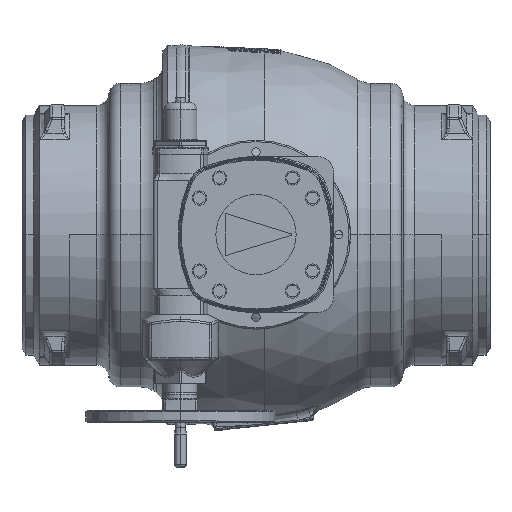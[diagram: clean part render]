
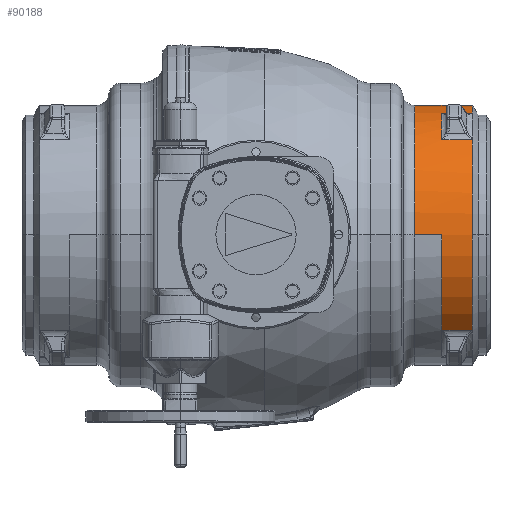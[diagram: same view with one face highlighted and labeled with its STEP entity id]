
A CAD part, top view. The second image highlights one B-rep face of the part: STEP entity #90188.
In plain terms, the highlighted cylindrical face has radius 275 mm (diameter 550 mm), a partial arc.
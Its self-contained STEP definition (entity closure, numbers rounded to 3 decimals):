
#17996=DIRECTION('',(-1.,0.,0.));
#17997=VECTOR('',#17996,57.674);
#17998=CARTESIAN_POINT('',(393.5,0.,-275.));
#17999=LINE('',#17998,#17997);
#18005=DIRECTION('',(-1.,0.,0.));
#18006=VECTOR('',#18005,57.674);
#18007=CARTESIAN_POINT('',(393.5,0.,275.));
#18008=LINE('',#18007,#18006);
#18009=CARTESIAN_POINT('',(393.5,0.,0.));
#18010=DIRECTION('',(-1.,0.,0.));
#18011=DIRECTION('',(0.,-0.733,0.68));
#18012=AXIS2_PLACEMENT_3D('',#18009,#18010,#18011);
#18661=CARTESIAN_POINT('',(458.376,0.,0.));
#18662=DIRECTION('',(-1.,0.,0.));
#18663=DIRECTION('',(0.,0.,1.));
#18664=AXIS2_PLACEMENT_3D('',#18661,#18662,#18663);
#18666=CARTESIAN_POINT('',(458.376,0.,0.));
#18667=DIRECTION('',(-1.,0.,0.));
#18668=DIRECTION('',(0.,-0.733,0.68));
#18669=AXIS2_PLACEMENT_3D('',#18666,#18667,#18668);
#18671=DIRECTION('',(-1.,0.,0.));
#18672=VECTOR('',#18671,64.876);
#18673=CARTESIAN_POINT('',(458.376,-201.653,
186.978));
#18674=LINE('',#18673,#18672);
#18675=CARTESIAN_POINT('',(335.826,0.,0.));
#18676=DIRECTION('',(1.,0.,0.));
#18677=DIRECTION('',(0.,0.,-1.));
#18678=AXIS2_PLACEMENT_3D('',#18675,#18676,#18677);
#18680=DIRECTION('',(-1.,0.,0.));
#18681=VECTOR('',#18680,64.876);
#18682=CARTESIAN_POINT('',(458.376,47.742,
-270.824));
#18683=LINE('',#18682,#18681);
#18684=CARTESIAN_POINT('',(458.376,0.,0.));
#18685=DIRECTION('',(-1.,0.,0.));
#18686=DIRECTION('',(0.,0.94,0.342));
#18687=AXIS2_PLACEMENT_3D('',#18684,#18685,#18686);
#18689=DIRECTION('',(-1.,0.,0.));
#18690=VECTOR('',#18689,64.876);
#18691=CARTESIAN_POINT('',(458.376,258.411,94.067));
#18692=LINE('',#18691,#18690);
#18693=DIRECTION('',(-1.,0.,0.));
#18694=VECTOR('',#18693,64.876);
#18695=CARTESIAN_POINT('',(458.376,201.653,186.978));
#18696=LINE('',#18695,#18694);
#18864=CARTESIAN_POINT('',(393.5,201.653,186.978));
#18866=CARTESIAN_POINT('',(393.5,0.,0.));
#18867=DIRECTION('',(-1.,0.,0.));
#18868=DIRECTION('',(0.,0.733,0.68));
#18869=AXIS2_PLACEMENT_3D('',#18866,#18867,#18868);
#19000=CARTESIAN_POINT('',(393.5,258.411,94.067));
#19598=CARTESIAN_POINT('',(393.5,47.742,-270.824));
#19600=CARTESIAN_POINT('',(393.5,0.,0.));
#19601=DIRECTION('',(-1.,0.,0.));
#19602=DIRECTION('',(0.,0.174,-0.985));
#19603=AXIS2_PLACEMENT_3D('',#19600,#19601,#19602);
#40465=CARTESIAN_POINT('',(335.826,0.,-275.));
#40466=CARTESIAN_POINT('',(335.826,0.,275.));
#40467=VERTEX_POINT('',#40465);
#40468=VERTEX_POINT('',#40466);
#41492=CARTESIAN_POINT('',(458.376,0.,275.));
#41493=CARTESIAN_POINT('',(458.376,201.653,186.978));
#41494=VERTEX_POINT('',#41492);
#41495=VERTEX_POINT('',#41493);
#41550=CARTESIAN_POINT('',(393.5,0.,-275.));
#41551=VERTEX_POINT('',#41550);
#41552=CARTESIAN_POINT('',(393.5,0.,275.));
#41553=VERTEX_POINT('',#41552);
#41554=CARTESIAN_POINT('',(393.5,-201.653,186.978));
#41555=VERTEX_POINT('',#41554);
#41580=VERTEX_POINT('',#19598);
#41646=VERTEX_POINT('',#18864);
#41688=VERTEX_POINT('',#19000);
#41697=CARTESIAN_POINT('',(458.376,258.411,94.067));
#41698=CARTESIAN_POINT('',(458.376,47.742,
-270.824));
#41699=VERTEX_POINT('',#41697);
#41700=VERTEX_POINT('',#41698);
#41701=CARTESIAN_POINT('',(458.376,-201.653,
186.978));
#41702=VERTEX_POINT('',#41701);
#90161=CARTESIAN_POINT('',(549.675,0.,0.));
#90162=DIRECTION('',(-1.,0.,0.));
#90163=DIRECTION('',(0.,0.,1.));
#90164=AXIS2_PLACEMENT_3D('',#90161,#90162,#90163);
#90165=CYLINDRICAL_SURFACE('',#90164,275.);
#90167=ORIENTED_EDGE('',*,*,#90166,.F.);
#90168=ORIENTED_EDGE('',*,*,#88835,.F.);
#90169=ORIENTED_EDGE('',*,*,#90016,.T.);
#90170=ORIENTED_EDGE('',*,*,#88810,.T.);
#90171=ORIENTED_EDGE('',*,*,#88808,.T.);
#90172=ORIENTED_EDGE('',*,*,#88761,.F.);
#90173=ORIENTED_EDGE('',*,*,#88805,.F.);
#90175=ORIENTED_EDGE('',*,*,#90174,.F.);
#90177=ORIENTED_EDGE('',*,*,#90176,.F.);
#90179=ORIENTED_EDGE('',*,*,#90178,.F.);
#90181=ORIENTED_EDGE('',*,*,#90180,.T.);
#90183=ORIENTED_EDGE('',*,*,#90182,.F.);
#90185=ORIENTED_EDGE('',*,*,#90184,.F.);
#90186=EDGE_LOOP('',(#90167,#90168,#90169,#90170,#90171,#90172,#90173,#90175,
#90177,#90179,#90181,#90183,#90185));
#90187=FACE_OUTER_BOUND('',#90186,.F.);
#90188=ADVANCED_FACE('',(#90187),#90165,.T.);
#18013=CIRCLE('',#18012,275.);
#18665=CIRCLE('',#18664,275.);
#18670=CIRCLE('',#18669,275.);
#18679=CIRCLE('',#18678,275.);
#18688=CIRCLE('',#18687,275.);
#18870=CIRCLE('',#18869,275.);
#19604=CIRCLE('',#19603,275.);
#88761=EDGE_CURVE('',#40467,#40468,#18679,.T.);
#88805=EDGE_CURVE('',#41551,#40467,#17999,.T.);
#88808=EDGE_CURVE('',#41553,#40468,#18008,.T.);
#88810=EDGE_CURVE('',#41555,#41553,#18013,.T.);
#88835=EDGE_CURVE('',#41702,#41494,#18670,.T.);
#90016=EDGE_CURVE('',#41702,#41555,#18674,.T.);
#90166=EDGE_CURVE('',#41494,#41495,#18665,.T.);
#90174=EDGE_CURVE('',#41580,#41551,#19604,.T.);
#90176=EDGE_CURVE('',#41700,#41580,#18683,.T.);
#90178=EDGE_CURVE('',#41699,#41700,#18688,.T.);
#90180=EDGE_CURVE('',#41699,#41688,#18692,.T.);
#90182=EDGE_CURVE('',#41646,#41688,#18870,.T.);
#90184=EDGE_CURVE('',#41495,#41646,#18696,.T.);
